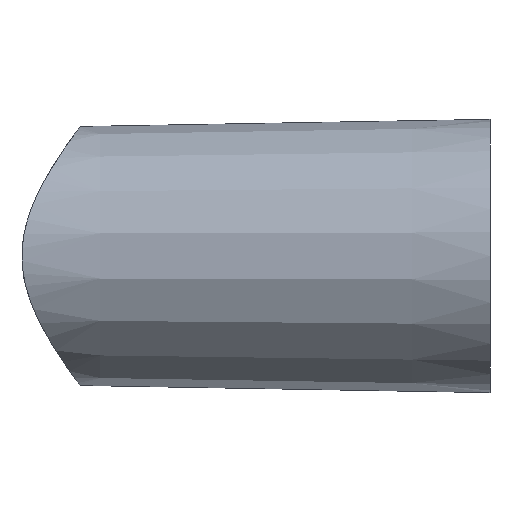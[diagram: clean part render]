
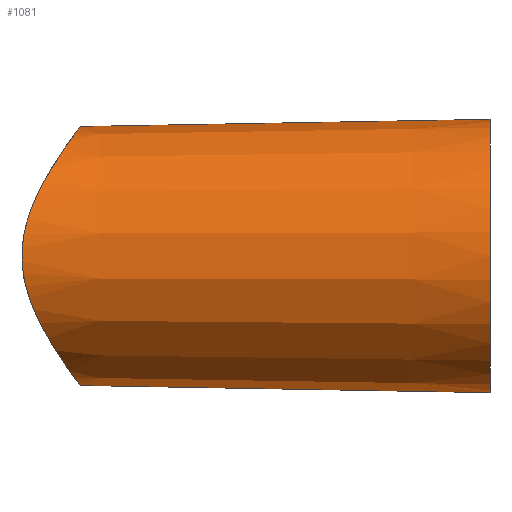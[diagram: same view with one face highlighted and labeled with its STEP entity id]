
A CAD part, left-side view. The second image highlights one B-rep face of the part: STEP entity #1081.
In plain terms, the highlighted conical face has half-angle 1 degrees and reference radius 10 mm.
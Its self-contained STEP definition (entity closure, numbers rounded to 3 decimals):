
#4 = ORIENTED_EDGE ( 'NONE', *, *, #586, .F. ) ;
#14 = CARTESIAN_POINT ( 'NONE',  ( 0., 0., 10. ) ) ;
#31 = VECTOR ( 'NONE', #185, 1000. ) ;
#50 = CARTESIAN_POINT ( 'NONE',  ( -8.781, 33.602, 3.406 ) ) ;
#53 = CARTESIAN_POINT ( 'NONE',  ( -1.608, 30.1, 9.343 ) ) ;
#61 = AXIS2_PLACEMENT_3D ( 'NONE', #820, #649, #236 ) ;
#70 = CARTESIAN_POINT ( 'NONE',  ( -9.068, 33.896, 2.526 ) ) ;
#81 = EDGE_CURVE ( 'NONE', #479, #731, #418, .T. ) ;
#131 = CARTESIAN_POINT ( 'NONE',  ( -9.386, 34.244, 0.639 ) ) ;
#136 = CONICAL_SURFACE ( 'NONE', #61, 10., 0.017 ) ;
#143 = CARTESIAN_POINT ( 'NONE',  ( -3.154, 30.39, 8.951 ) ) ;
#150 = CARTESIAN_POINT ( 'NONE',  ( -5.089, 31.079, 7.978 ) ) ;
#158 = CARTESIAN_POINT ( 'NONE',  ( 0., 0., 0. ) ) ;
#160 = CARTESIAN_POINT ( 'NONE',  ( 0., 0., 10. ) ) ;
#163 = CARTESIAN_POINT ( 'NONE',  ( -5.815, 31.421, -7.475 ) ) ;
#183 = VERTEX_POINT ( 'NONE', #14 ) ;
#185 = DIRECTION ( 'NONE',  ( 0., -1., -0.017 ) ) ;
#221 = CARTESIAN_POINT ( 'NONE',  ( -7.981, 32.878, 5.024 ) ) ;
#225 = CARTESIAN_POINT ( 'NONE',  ( -4.295, 30.757, 8.438 ) ) ;
#233 = CARTESIAN_POINT ( 'NONE',  ( -9.334, 34.183, -1.307 ) ) ;
#236 = DIRECTION ( 'NONE',  ( 0., 0., 1. ) ) ;
#238 = EDGE_CURVE ( 'NONE', #731, #323, #413, .T. ) ;
#239 = CARTESIAN_POINT ( 'NONE',  ( -1.283, 30.05, -9.41 ) ) ;
#240 = CARTESIAN_POINT ( 'NONE',  ( -6.892, 32.069, -6.458 ) ) ;
#245 = LINE ( 'NONE', #160, #701 ) ;
#260 = ORIENTED_EDGE ( 'NONE', *, *, #560, .T. ) ;
#304 = CARTESIAN_POINT ( 'NONE',  ( -7.969, 32.867, -5.044 ) ) ;
#318 = CARTESIAN_POINT ( 'NONE',  ( -9.141, 33.974, -2.243 ) ) ;
#323 = VERTEX_POINT ( 'NONE', #340 ) ;
#328 = CARTESIAN_POINT ( 'NONE',  ( -7.091, 32.203, -6.236 ) ) ;
#332 = CARTESIAN_POINT ( 'NONE',  ( -5.074, 31.073, -7.987 ) ) ;
#340 = CARTESIAN_POINT ( 'NONE',  ( 0., 0., -10. ) ) ;
#380 = AXIS2_PLACEMENT_3D ( 'NONE', #158, #743, #653 ) ;
#381 = CARTESIAN_POINT ( 'NONE',  ( -8.538, 33.369, -3.986 ) ) ;
#387 = CARTESIAN_POINT ( 'NONE',  ( -9.147, 33.98, 2.217 ) ) ;
#393 = CARTESIAN_POINT ( 'NONE',  ( -1.286, 30.062, 9.393 ) ) ;
#397 = CARTESIAN_POINT ( 'NONE',  ( -9.062, 33.889, -2.55 ) ) ;
#413 = LINE ( 'NONE', #941, #31 ) ;
#418 = B_SPLINE_CURVE_WITH_KNOTS ( 'NONE', 3,
 ( #720, #558, #1055, #393, #53, #824, #143, #546, #225, #1064, #150, #985, #484, #907, #1069, #221, #981, #563, #468, #50, #478, #70, #387, #733, #818, #131, #474, #715, #233, #318, #397, #892, #805, #381, #809, #973, #304, #897, #976, #328, #240, #997, #163, #332, #922, #573, #498, #1086, #747, #239, #837, #488 ),
 .UNSPECIFIED., .F., .F.,
 ( 4, 2, 2, 2, 2, 2, 2, 2, 2, 2, 2, 2, 2, 2, 2, 2, 2, 2, 2, 2, 2, 2, 2, 2, 2, 4 ),
 ( 0.039, 0.04, 0.041, 0.043, 0.044, 0.045, 0.047, 0.049, 0.049, 0.05, 0.051, 0.052, 0.053, 0.054, 0.056, 0.057, 0.058, 0.059, 0.06, 0.061, 0.062, 0.064, 0.065, 0.066, 0.068, 0.07 ),
 .UNSPECIFIED. ) ;
#468 = CARTESIAN_POINT ( 'NONE',  ( -8.547, 33.378, 3.965 ) ) ;
#474 = CARTESIAN_POINT ( 'NONE',  ( -9.402, 34.263, 0.313 ) ) ;
#478 = CARTESIAN_POINT ( 'NONE',  ( -8.885, 33.707, 3.119 ) ) ;
#479 = VERTEX_POINT ( 'NONE', #886 ) ;
#484 = CARTESIAN_POINT ( 'NONE',  ( -6.293, 31.689, 7.07 ) ) ;
#488 = CARTESIAN_POINT ( 'NONE',  ( 0., 30., -9.476 ) ) ;
#498 = CARTESIAN_POINT ( 'NONE',  ( -3.999, 30.653, -8.584 ) ) ;
#546 = CARTESIAN_POINT ( 'NONE',  ( -4.015, 30.658, 8.577 ) ) ;
#558 = CARTESIAN_POINT ( 'NONE',  ( -0.323, 30., 9.476 ) ) ;
#560 = EDGE_CURVE ( 'NONE', #323, #183, #1006, .T. ) ;
#563 = CARTESIAN_POINT ( 'NONE',  ( -8.418, 33.258, 4.236 ) ) ;
#573 = CARTESIAN_POINT ( 'NONE',  ( -4.278, 30.751, -8.447 ) ) ;
#586 = EDGE_CURVE ( 'NONE', #479, #183, #245, .T. ) ;
#591 = FACE_OUTER_BOUND ( 'NONE', #624, .T. ) ;
#624 = EDGE_LOOP ( 'NONE', ( #993, #1070, #260, #4 ) ) ;
#649 = DIRECTION ( 'NONE',  ( 0., -1., 0. ) ) ;
#653 = DIRECTION ( 'NONE',  ( 0., 0., 1. ) ) ;
#701 = VECTOR ( 'NONE', #914, 1000. ) ;
#715 = CARTESIAN_POINT ( 'NONE',  ( -9.401, 34.262, -0.669 ) ) ;
#720 = CARTESIAN_POINT ( 'NONE',  ( 0., 30., 9.476 ) ) ;
#731 = VERTEX_POINT ( 'NONE', #1014 ) ;
#733 = CARTESIAN_POINT ( 'NONE',  ( -9.274, 34.118, 1.594 ) ) ;
#743 = DIRECTION ( 'NONE',  ( 0., 1., 0. ) ) ;
#747 = CARTESIAN_POINT ( 'NONE',  ( -2.546, 30.245, -9.146 ) ) ;
#805 = CARTESIAN_POINT ( 'NONE',  ( -8.773, 33.594, -3.428 ) ) ;
#809 = CARTESIAN_POINT ( 'NONE',  ( -8.408, 33.248, -4.257 ) ) ;
#818 = CARTESIAN_POINT ( 'NONE',  ( -9.322, 34.172, 1.279 ) ) ;
#820 = CARTESIAN_POINT ( 'NONE',  ( 0., 0., 0. ) ) ;
#824 = CARTESIAN_POINT ( 'NONE',  ( -2.554, 30.247, 9.144 ) ) ;
#837 = CARTESIAN_POINT ( 'NONE',  ( -0.643, 30., -9.476 ) ) ;
#886 = CARTESIAN_POINT ( 'NONE',  ( 0., 30., 9.476 ) ) ;
#892 = CARTESIAN_POINT ( 'NONE',  ( -8.878, 33.699, -3.141 ) ) ;
#897 = CARTESIAN_POINT ( 'NONE',  ( -7.64, 32.604, -5.538 ) ) ;
#907 = CARTESIAN_POINT ( 'NONE',  ( -7.12, 32.215, 6.223 ) ) ;
#914 = DIRECTION ( 'NONE',  ( 0., -1., 0.017 ) ) ;
#922 = CARTESIAN_POINT ( 'NONE',  ( -4.816, 30.961, -8.148 ) ) ;
#941 = CARTESIAN_POINT ( 'NONE',  ( 0., 0., -10. ) ) ;
#973 = CARTESIAN_POINT ( 'NONE',  ( -8.124, 32.998, -4.786 ) ) ;
#976 = CARTESIAN_POINT ( 'NONE',  ( -7.464, 32.47, -5.776 ) ) ;
#981 = CARTESIAN_POINT ( 'NONE',  ( -8.136, 33.008, 4.766 ) ) ;
#985 = CARTESIAN_POINT ( 'NONE',  ( -5.833, 31.431, 7.462 ) ) ;
#993 = ORIENTED_EDGE ( 'NONE', *, *, #81, .T. ) ;
#997 = CARTESIAN_POINT ( 'NONE',  ( -6.268, 31.674, -7.093 ) ) ;
#1006 = CIRCLE ( 'NONE', #380, 10. ) ;
#1014 = CARTESIAN_POINT ( 'NONE',  ( 0., 30., -9.476 ) ) ;
#1055 = CARTESIAN_POINT ( 'NONE',  ( -0.644, 30.012, 9.46 ) ) ;
#1064 = CARTESIAN_POINT ( 'NONE',  ( -4.831, 30.968, 8.139 ) ) ;
#1069 = CARTESIAN_POINT ( 'NONE',  ( -7.49, 32.483, 5.765 ) ) ;
#1070 = ORIENTED_EDGE ( 'NONE', *, *, #238, .T. ) ;
#1081 = ADVANCED_FACE ( 'NONE', ( #591 ), #136, .T. ) ;
#1086 = CARTESIAN_POINT ( 'NONE',  ( -3.145, 30.387, -8.954 ) ) ;
